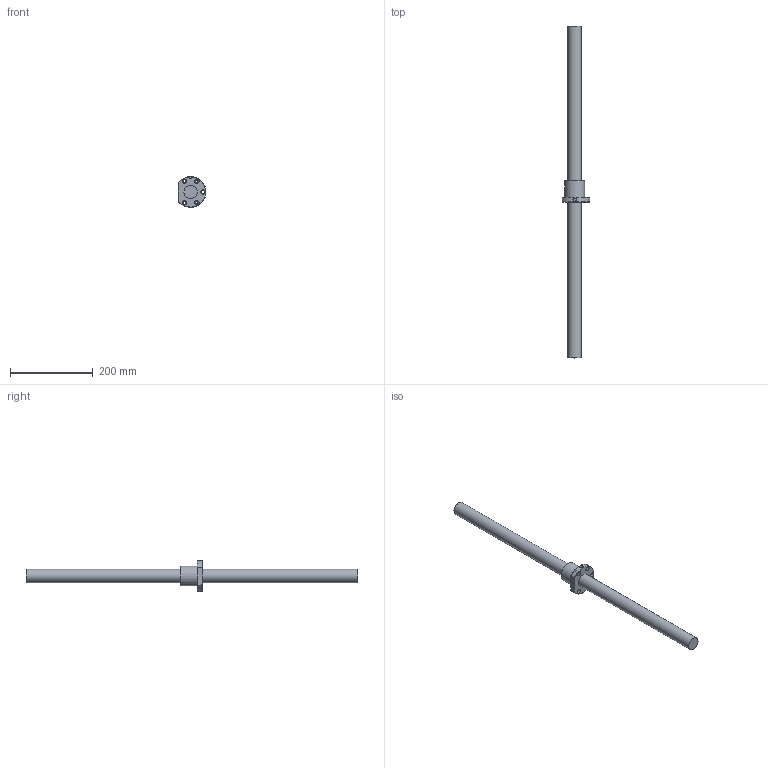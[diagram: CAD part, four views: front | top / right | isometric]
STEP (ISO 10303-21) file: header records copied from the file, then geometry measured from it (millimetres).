
FILE_DESCRIPTION(/* description */ (''),/* implementation_level */ '2;1');
FILE_NAME(/* name */ 'SFM03205-4-N-NoneNone-800.stp',/* time_stamp */ '2014-09-10T16:12:48+08:00',/* author */ (''),/* organization */ (''),/* preprocessor_version */ 'ST-DEVELOPER v11',/* originating_system */ 'SIEMENS UGS NX 6.0',/* authorisation */ '');
FILE_SCHEMA (('AUTOMOTIVE_DESIGN { 1 0 10303 214 1 1 1 1 }'));
Length unit declared in the file: millimetre
Products named in the file (1): SFM03205-4-N-NoneNone-800
Bounding box: 66.92 x 800 x 73.89 mm (x, y, z)
Volume: 718773 mm3; surface area: 103922.2 mm2
Topology: 2 solids, 2 shells, 30 faces, 58 edges, 39 vertices
Faces by surface type: cylinder 15, plane 12, torus 3
Full cylindrical faces by diameter (mm): 6.5 x5, 8 x1, 11 x5, 32 x2, 48 x1
Entity records: 849 total; most frequent: CARTESIAN_POINT 226, DIRECTION 130, ORIENTED_EDGE 82, EDGE_LOOP 64, AXIS2_PLACEMENT_3D 63, FACE_BOUND 58, EDGE_CURVE 41, VERTEX_POINT 37
